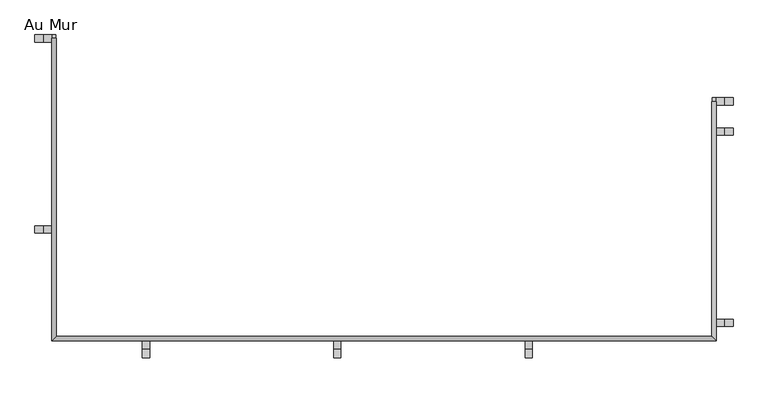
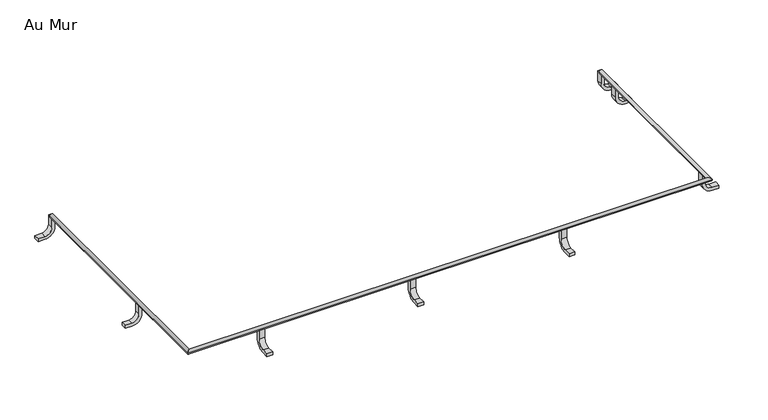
"""IFC4 building model written with IfcOpenShell, lengths in millimetres: railing geometry, Au Mur."""

from ifc_helpers import new_model, si_unit, point, frame, frame_2d, origin, place, context, project, spatial, polyline, circle_curve, ellipse_curve, trimmed, segment, composite_curve, outline, extrude, source, transform, mapped, element, save
from ifc_brep_helpers import plane_surface, cylinder_surface, advanced_brep


def au_mur_475f99a8(model_context):
    return source(origin(), model_context, "Body", "SolidModel", [
        advanced_brep(
        [(9158.6466393, 1305.4265057, 3220.0), (9138.6466393, 1305.4265057, 3220.0), (9158.6466393, 59.524191, 3220.0), (9138.6466393, 39.524191, 3220.0), (11896.8466393, 59.524191, 3220.0), (11916.8466393, 39.524191, 3220.0), (11896.8466393, 1042.0685723, 3220.0), (11916.8466393, 1042.0685723, 3220.0)],
        [
            (0, 1, circle_curve(frame((9148.6466393, 1305.4265057, 3220.0), z_axis=(0.0, 1.0, 0.0), x_axis=(-1.0, 0.0, 0.0)), 10.0)),
            (1, 0, circle_curve(frame((9148.6466393, 1305.4265057, 3220.0), z_axis=(0.0, 1.0, 0.0), x_axis=(-1.0, 0.0, 0.0)), 10.0)),
            (0, 2),
            (2, 3, ellipse_curve(frame((9148.6466393, 49.524191, 3220.0), z_axis=(-0.7071067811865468, 0.7071067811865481, 0.0), x_axis=(0.7071067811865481, 0.7071067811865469, 0.0)), 14.1421356, 10.0)),
            (3, 1),
            (3, 2, ellipse_curve(frame((9148.6466393, 49.524191, 3220.0), z_axis=(-0.7071067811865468, 0.7071067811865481, 0.0), x_axis=(0.7071067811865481, 0.7071067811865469, 0.0)), 14.1421356, 10.0)),
            (2, 4),
            (4, 5, ellipse_curve(frame((11906.8466393, 49.524191, 3220.0), z_axis=(-0.7071067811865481, -0.7071067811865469, 0.0), x_axis=(-0.7071067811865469, 0.707106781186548, 0.0)), 14.1421356, 10.0)),
            (5, 3),
            (5, 4, ellipse_curve(frame((11906.8466393, 49.524191, 3220.0), z_axis=(-0.7071067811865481, -0.7071067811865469, 0.0), x_axis=(-0.7071067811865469, 0.707106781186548, 0.0)), 14.1421356, 10.0)),
            (6, 7, circle_curve(frame((11906.8466393, 1042.0685723, 3220.0), z_axis=(0.0, 1.0, 0.0), x_axis=(1.0, 0.0, 0.0)), 10.0)),
            (7, 6, circle_curve(frame((11906.8466393, 1042.0685723, 3220.0), z_axis=(0.0, 1.0, 0.0), x_axis=(1.0, 0.0, 0.0)), 10.0)),
            (4, 6),
            (7, 5),
        ],
        [
            plane_surface(frame((9148.6466393, 1305.4265057, 3220.0), z_axis=(0.0, 1.0, 0.0), x_axis=(0.0, 0.0, -1.0))),
            cylinder_surface(frame((9148.6466393, 1305.4265057, 3220.0), z_axis=(0.0, 1.0, 0.0), x_axis=(-1.0, 0.0, 0.0)), 10.0),
            cylinder_surface(frame((9148.6466393, 49.524191, 3220.0), z_axis=(-1.0, 0.0, 0.0), x_axis=(0.0, -1.0, 0.0)), 10.0),
            plane_surface(frame((11906.8466393, 1042.0685723, 3220.0), z_axis=(0.0, 1.0, 0.0), x_axis=(0.0, 0.0, 1.0))),
            cylinder_surface(frame((11906.8466393, 49.524191, 3220.0), z_axis=(0.0, -1.0, 0.0), x_axis=(1.0, 0.0, 0.0)), 10.0),
        ],
        [
            (0, [[1, 2]]),
            (1, [[-1, 3, 4, 5]]),
            (1, [[-2, -5, 6, -3]]),
            (2, [[-4, 7, 8, 9]]),
            (2, [[-6, -9, 10, -7]]),
            (3, [[11, 12]]),
            (4, [[-8, 13, -12, 14]]),
            (4, [[-10, -14, -11, -13]]),
        ],
    ),
        extrude(outline(composite_curve([segment(polyline([(3112.0, 11986.8466393), (3128.0, 11986.8466393), (3128.0, 11951.8466393)]), True, "CONTINUOUS"), segment(trimmed(circle_curve(frame_2d((3165.0, 11951.8466393)), 37.0), [point((3128.0, 11951.8466393))], [point((3165.0, 11914.8466393))], True, "CARTESIAN"), True, "CONTINUOUS"), segment(polyline([(3165.0, 11914.8466393), (3220.0, 11914.8466393), (3220.0, 11898.8466393), (3165.0, 11898.8466393)]), True, "CONTINUOUS"), segment(trimmed(circle_curve(frame_2d((3165.0, 11951.8466393)), 53.0), [point((3165.0, 11898.8466393))], [point((3112.0, 11951.8466393))], False, "CARTESIAN"), True, "CONTINUOUS"), segment(polyline([(3112.0, 11951.8466393), (3112.0, 11986.8466393)]), True, "CONTINUOUS")], self_intersect=False)), frame((0.0, 900.4218763, 0.0), z_axis=(0.0, 1.0, 0.0), x_axis=(0.0, 0.0, 1.0)), (0.0, 0.0, 1.0), 30.0),
        extrude(outline(composite_curve([segment(polyline([(3112.0, 11986.8466393), (3128.0, 11986.8466393), (3128.0, 11951.8466393)]), True, "CONTINUOUS"), segment(trimmed(circle_curve(frame_2d((3165.0, 11951.8466393)), 37.0), [point((3128.0, 11951.8466393))], [point((3165.0, 11914.8466393))], True, "CARTESIAN"), True, "CONTINUOUS"), segment(polyline([(3165.0, 11914.8466393), (3220.0, 11914.8466393), (3220.0, 11898.8466393), (3165.0, 11898.8466393)]), True, "CONTINUOUS"), segment(trimmed(circle_curve(frame_2d((3165.0, 11951.8466393)), 53.0), [point((3165.0, 11898.8466393))], [point((3112.0, 11951.8466393))], False, "CARTESIAN"), True, "CONTINUOUS"), segment(polyline([(3112.0, 11951.8466393), (3112.0, 11986.8466393)]), True, "CONTINUOUS")], self_intersect=False)), frame((0.0, 100.4218763, 0.0), z_axis=(0.0, 1.0, 0.0), x_axis=(0.0, 0.0, 1.0)), (0.0, 0.0, 1.0), 30.0),
        extrude(outline(composite_curve([segment(polyline([(-30.475809, 3112.0), (-30.475809, 3128.0), (4.524191, 3128.0)]), True, "CONTINUOUS"), segment(trimmed(circle_curve(frame_2d((4.524191, 3165.0)), 37.0), [point((4.524191, 3128.0))], [point((41.524191, 3165.0))], True, "CARTESIAN"), True, "CONTINUOUS"), segment(polyline([(41.524191, 3165.0), (41.524191, 3220.0), (57.524191, 3220.0), (57.524191, 3165.0)]), True, "CONTINUOUS"), segment(trimmed(circle_curve(frame_2d((4.524191, 3165.0)), 53.0), [point((57.524191, 3165.0))], [point((4.524191, 3112.0))], False, "CARTESIAN"), True, "CONTINUOUS"), segment(polyline([(4.524191, 3112.0), (-30.475809, 3112.0)]), True, "CONTINUOUS")], self_intersect=False)), frame((11117.7443246, 0.0, 0.0), z_axis=(1.0, 0.0, 0.0), x_axis=(0.0, 1.0, 0.0)), (0.0, 0.0, 1.0), 30.0),
        extrude(outline(composite_curve([segment(polyline([(-30.475809, 3112.0), (-30.475809, 3128.0), (4.524191, 3128.0)]), True, "CONTINUOUS"), segment(trimmed(circle_curve(frame_2d((4.524191, 3165.0)), 37.0), [point((4.524191, 3128.0))], [point((41.524191, 3165.0))], True, "CARTESIAN"), True, "CONTINUOUS"), segment(polyline([(41.524191, 3165.0), (41.524191, 3220.0), (57.524191, 3220.0), (57.524191, 3165.0)]), True, "CONTINUOUS"), segment(trimmed(circle_curve(frame_2d((4.524191, 3165.0)), 53.0), [point((57.524191, 3165.0))], [point((4.524191, 3112.0))], False, "CARTESIAN"), True, "CONTINUOUS"), segment(polyline([(4.524191, 3112.0), (-30.475809, 3112.0)]), True, "CONTINUOUS")], self_intersect=False)), frame((10317.7443246, 0.0, 0.0), z_axis=(1.0, 0.0, 0.0), x_axis=(0.0, 1.0, 0.0)), (0.0, 0.0, 1.0), 30.0),
        extrude(outline(composite_curve([segment(polyline([(-30.475809, 3112.0), (-30.475809, 3128.0), (4.524191, 3128.0)]), True, "CONTINUOUS"), segment(trimmed(circle_curve(frame_2d((4.524191, 3165.0)), 37.0), [point((4.524191, 3128.0))], [point((41.524191, 3165.0))], True, "CARTESIAN"), True, "CONTINUOUS"), segment(polyline([(41.524191, 3165.0), (41.524191, 3220.0), (57.524191, 3220.0), (57.524191, 3165.0)]), True, "CONTINUOUS"), segment(trimmed(circle_curve(frame_2d((4.524191, 3165.0)), 53.0), [point((57.524191, 3165.0))], [point((4.524191, 3112.0))], False, "CARTESIAN"), True, "CONTINUOUS"), segment(polyline([(4.524191, 3112.0), (-30.475809, 3112.0)]), True, "CONTINUOUS")], self_intersect=False)), frame((9517.7443246, 0.0, 0.0), z_axis=(1.0, 0.0, 0.0), x_axis=(0.0, 1.0, 0.0)), (0.0, 0.0, 1.0), 30.0),
        extrude(outline(composite_curve([segment(polyline([(3128.0, 9068.6466393), (3112.0, 9068.6466393), (3112.0, 9103.6466393)]), True, "CONTINUOUS"), segment(trimmed(circle_curve(frame_2d((3165.0, 9103.6466393)), 53.0), [point((3112.0, 9103.6466393))], [point((3165.0, 9156.6466393))], False, "CARTESIAN"), True, "CONTINUOUS"), segment(polyline([(3165.0, 9156.6466393), (3220.0, 9156.6466393), (3220.0, 9140.6466393), (3165.0, 9140.6466393)]), True, "CONTINUOUS"), segment(trimmed(circle_curve(frame_2d((3165.0, 9103.6466393)), 37.0), [point((3165.0, 9140.6466393))], [point((3128.0, 9103.6466393))], True, "CARTESIAN"), True, "CONTINUOUS"), segment(polyline([(3128.0, 9103.6466393), (3128.0, 9068.6466393)]), True, "CONTINUOUS")], self_intersect=False)), frame((0.0, 490.4265057, 0.0), z_axis=(0.0, 1.0, 0.0), x_axis=(0.0, 0.0, 1.0)), (0.0, 0.0, 1.0), 30.0),
        extrude(outline(composite_curve([segment(polyline([(3112.0, 11986.8466393), (3128.0, 11986.8466393), (3128.0, 11951.8466393)]), True, "CONTINUOUS"), segment(trimmed(circle_curve(frame_2d((3165.0, 11951.8466393)), 37.0), [point((3128.0, 11951.8466393))], [point((3165.0, 11914.8466393))], True, "CARTESIAN"), True, "CONTINUOUS"), segment(polyline([(3165.0, 11914.8466393), (3220.0, 11914.8466393), (3220.0, 11898.8466393), (3165.0, 11898.8466393)]), True, "CONTINUOUS"), segment(trimmed(circle_curve(frame_2d((3165.0, 11951.8466393)), 53.0), [point((3165.0, 11898.8466393))], [point((3112.0, 11951.8466393))], False, "CARTESIAN"), True, "CONTINUOUS"), segment(polyline([(3112.0, 11951.8466393), (3112.0, 11986.8466393)]), True, "CONTINUOUS")], self_intersect=False)), frame((0.0, 1027.0685723, 0.0), z_axis=(0.0, 1.0, 0.0), x_axis=(0.0, 0.0, 1.0)), (0.0, 0.0, 1.0), 30.0),
        extrude(outline(composite_curve([segment(polyline([(3128.0, 9068.6466393), (3112.0, 9068.6466393), (3112.0, 9103.6466393)]), True, "CONTINUOUS"), segment(trimmed(circle_curve(frame_2d((3165.0, 9103.6466393)), 53.0), [point((3112.0, 9103.6466393))], [point((3165.0, 9156.6466393))], False, "CARTESIAN"), True, "CONTINUOUS"), segment(polyline([(3165.0, 9156.6466393), (3220.0, 9156.6466393), (3220.0, 9140.6466393), (3165.0, 9140.6466393)]), True, "CONTINUOUS"), segment(trimmed(circle_curve(frame_2d((3165.0, 9103.6466393)), 37.0), [point((3165.0, 9140.6466393))], [point((3128.0, 9103.6466393))], True, "CARTESIAN"), True, "CONTINUOUS"), segment(polyline([(3128.0, 9103.6466393), (3128.0, 9068.6466393)]), True, "CONTINUOUS")], self_intersect=False)), frame((0.0, 1290.4265057, 0.0), z_axis=(0.0, 1.0, 0.0), x_axis=(0.0, 0.0, 1.0)), (0.0, 0.0, 1.0), 30.0),
    ])


if __name__ == "__main__":
    model = new_model("IFC4")
    model_context = context("Model", 3, world=origin())
    ifc_project = project(units=[si_unit("LENGTHUNIT", "METRE", prefix="MILLI")], contexts=[model_context])
    site = spatial("IfcSite", under=ifc_project)
    building = spatial("IfcBuilding", under=site)
    placement = place(None, origin())
    au_mur_shape = au_mur_475f99a8(model_context)
    element("IfcRailing", 1, ObjectType="Au Mur", at=placement, inside=building, context=model_context, shape_type="MappedRepresentation", body=[
        mapped(au_mur_shape, transform((0.0, 0.0, 0.0), x_axis=(1.0, 0.0, 0.0), y_axis=(0.0, 1.0, 0.0), z_axis=(0.0, 0.0, 1.0))),
    ])
    save(model, "model.ifc")
